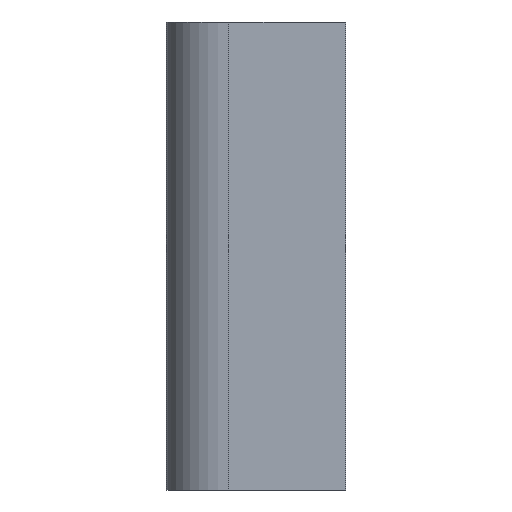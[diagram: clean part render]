
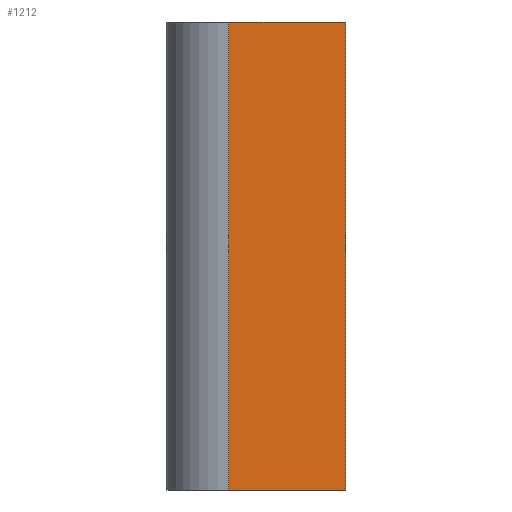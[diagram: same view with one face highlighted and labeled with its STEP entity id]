
A CAD part, left-side view. The second image highlights one B-rep face of the part: STEP entity #1212.
In plain terms, the highlighted planar face has unit normal (-1, 0, 0).
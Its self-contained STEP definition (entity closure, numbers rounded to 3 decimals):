
#180 = VECTOR ( 'NONE', #2563, 1000. ) ;
#201 = DIRECTION ( 'NONE',  ( 0., -1., 0. ) ) ;
#332 = DIRECTION ( 'NONE',  ( 0., 0., -1. ) ) ;
#339 = ORIENTED_EDGE ( 'NONE', *, *, #1641, .T. ) ;
#355 = VERTEX_POINT ( 'NONE', #2462 ) ;
#361 = DIRECTION ( 'NONE',  ( 1., 0., 0. ) ) ;
#426 = EDGE_CURVE ( 'NONE', #844, #1215, #503, .T. ) ;
#503 = LINE ( 'NONE', #2817, #2208 ) ;
#679 = VERTEX_POINT ( 'NONE', #1368 ) ;
#736 = DIRECTION ( 'NONE',  ( 0., 0., -1. ) ) ;
#820 = PLANE ( 'NONE',  #1177 ) ;
#844 = VERTEX_POINT ( 'NONE', #1650 ) ;
#1177 = AXIS2_PLACEMENT_3D ( 'NONE', #1301, #361, #332 ) ;
#1212 = ADVANCED_FACE ( 'NONE', ( #1958 ), #820, .F. ) ;
#1215 = VERTEX_POINT ( 'NONE', #2880 ) ;
#1301 = CARTESIAN_POINT ( 'NONE',  ( -4., 8.273, 30. ) ) ;
#1360 = LINE ( 'NONE', #2276, #1982 ) ;
#1368 = CARTESIAN_POINT ( 'NONE',  ( -4., 8.273, 30. ) ) ;
#1520 = DIRECTION ( 'NONE',  ( 0., 0., -1. ) ) ;
#1640 = LINE ( 'NONE', #1690, #180 ) ;
#1641 = EDGE_CURVE ( 'NONE', #355, #1215, #1360, .T. ) ;
#1650 = CARTESIAN_POINT ( 'NONE',  ( -4., 0.773, 30. ) ) ;
#1690 = CARTESIAN_POINT ( 'NONE',  ( -4., 8.273, 30. ) ) ;
#1756 = ORIENTED_EDGE ( 'NONE', *, *, #2547, .T. ) ;
#1958 = FACE_OUTER_BOUND ( 'NONE', #2811, .T. ) ;
#1982 = VECTOR ( 'NONE', #201, 1000. ) ;
#2074 = VECTOR ( 'NONE', #1520, 1000. ) ;
#2208 = VECTOR ( 'NONE', #736, 1000. ) ;
#2230 = EDGE_CURVE ( 'NONE', #679, #844, #1640, .T. ) ;
#2276 = CARTESIAN_POINT ( 'NONE',  ( -4., 8.273, 0. ) ) ;
#2410 = ORIENTED_EDGE ( 'NONE', *, *, #2230, .F. ) ;
#2457 = CARTESIAN_POINT ( 'NONE',  ( -4., 8.273, 30. ) ) ;
#2462 = CARTESIAN_POINT ( 'NONE',  ( -4., 8.273, 0. ) ) ;
#2547 = EDGE_CURVE ( 'NONE', #679, #355, #2917, .T. ) ;
#2563 = DIRECTION ( 'NONE',  ( 0., -1., 0. ) ) ;
#2672 = ORIENTED_EDGE ( 'NONE', *, *, #426, .F. ) ;
#2811 = EDGE_LOOP ( 'NONE', ( #339, #2672, #2410, #1756 ) ) ;
#2817 = CARTESIAN_POINT ( 'NONE',  ( -4., 0.773, 30. ) ) ;
#2880 = CARTESIAN_POINT ( 'NONE',  ( -4., 0.773, 0. ) ) ;
#2917 = LINE ( 'NONE', #2457, #2074 ) ;
